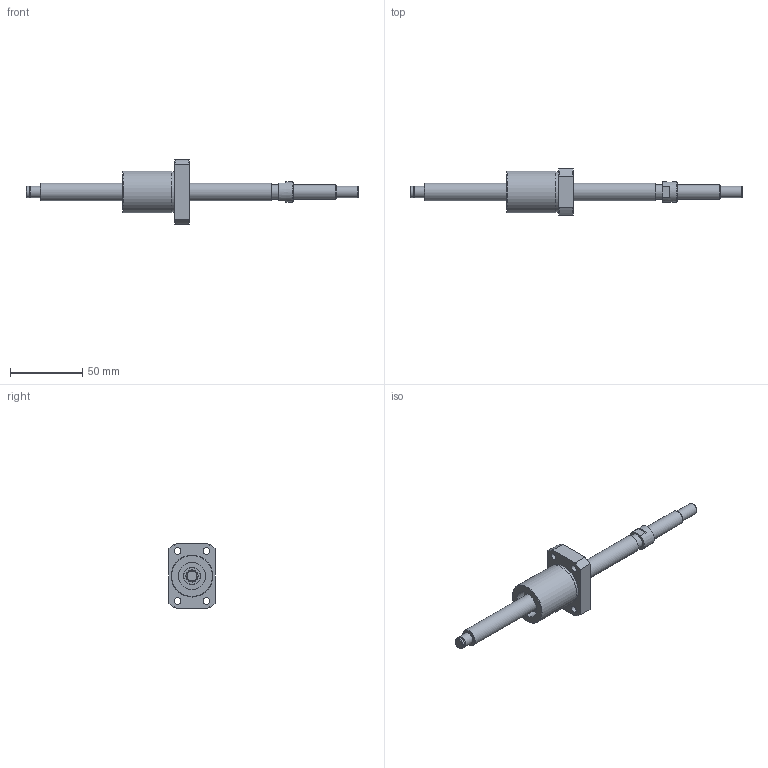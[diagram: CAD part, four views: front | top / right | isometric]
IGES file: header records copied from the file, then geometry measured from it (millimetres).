
Start section: Data from Parasolid IGES Translator 26.0.171, Copyright(c) 2006 Siemens PLM Software. All Rights Reserved.
Global section: file name: BNK1208-2.6RRG2+230LC7Y(1030).igs; native system: By Siemens PLM Incorporated; preprocessor: XPlus GENERIC/IGES 26.0.171; author: Noname; organization: Noname; date: 20240709.091101; units: millimetre
Bounding box: 230 x 32 x 45 mm (x, y, z)
Surface area: 18729.6 mm2 (no closed solid volume)
Topology: 0 solids, 0 shells, 76 faces, 327 edges, 284 vertices
Faces by surface type: revolution 47, extrusion 29
